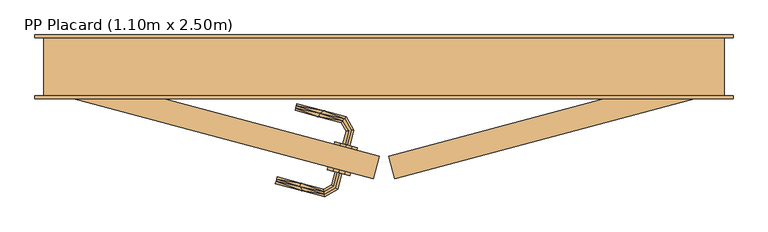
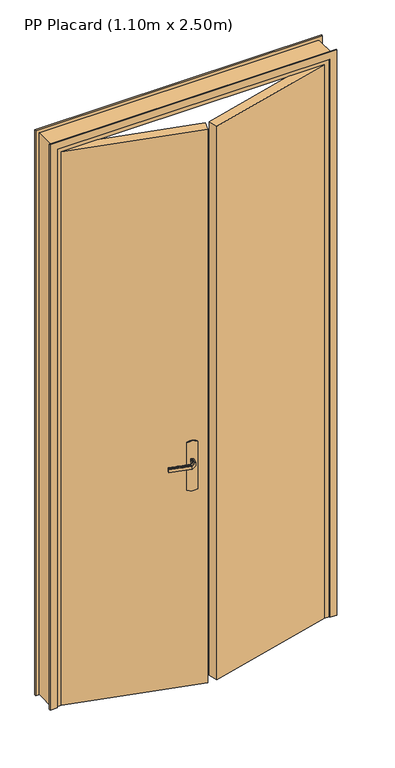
"""IFC4 building model written with IfcOpenShell, lengths in millimetres: door geometry, PP Placard (1.10m x 2.50m)."""

from ifc_helpers import new_model, si_unit, frame, origin, origin_with_axes, place, context, project, spatial, polyline, outline, extrude, faceted_brep, source, transform, mapped, element, save


def pp_placard_1_10m_x_2_50m_df28babe(model_context):
    return source(origin(), model_context, "Body", "SolidModel", [
        extrude(outline(polyline([(0.0, 1255.0), (2500.0, 1255.0), (2500.0, 55.0), (0.0, 55.0), (0.0, 85.0), (2470.0, 85.0), (2470.0, 1225.0), (0.0, 1225.0), (0.0, 1255.0)])), frame((0.0, 100.0, 0.0), z_axis=(0.0, 1.0, 0.0), x_axis=(0.0, 0.0, 1.0)), (0.0, 0.0, 1.0), 5.0),
        extrude(outline(polyline([(0.0, 0.0), (206.2910989, 39.2935427), (212.0216555, 30.5643917), (215.2976776, 20.6495021), (215.8959097, 10.2245573), (213.7755833, 0.0), (7.4844843, -39.2935426), (1.7539277, -30.5643917), (-1.5220943, -20.6495021), (-2.1203264, -10.2245573), (0.0, 0.0)])), frame((607.9749332, -93.36068, 870.0), z_axis=(0.2588190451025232, 0.9659258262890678, 0.0), x_axis=(-0.18073641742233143, 0.04842817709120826, 0.9823385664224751)), (0.0, 0.0, 1.0), 5.0),
        extrude(outline(polyline([(663.3880337, -103.7134418), (1194.6472382, 38.6370331), (1205.0, 0.0), (673.7407955, -142.3504748), (663.3880337, -103.7134418)])), origin_with_axes(), (0.0, 0.0, 1.0), 2450.0),
        extrude(outline(polyline([(646.6119663, -103.7134418), (636.2592045, -142.3504748), (105.0, 0.0), (115.3527618, 38.6370331), (646.6119663, -103.7134418)])), origin_with_axes(), (0.0, 0.0, 1.0), 2450.0),
        faceted_brep([(1240.0, 0.0, 0.0), (1205.0, 0.0, 0.0), (1205.0, 40.0, 0.0), (1190.0, 40.0, 0.0), (1190.0, 100.0, 0.0), (1240.0, 100.0, 0.0), (1240.0, 100.0, 2485.0), (1240.0, 0.0, 2485.0), (1190.0, 100.0, 2435.0), (120.0, 100.0, 2435.0), (120.0, 100.0, 0.0), (70.0, 100.0, 0.0), (70.0, 100.0, 2485.0), (1190.0, 40.0, 2435.0), (1205.0, 40.0, 2450.0), (105.0, 40.0, 2450.0), (105.0, 40.0, 0.0), (120.0, 40.0, 0.0), (120.0, 40.0, 2435.0), (1205.0, 0.0, 2450.0), (70.0, 0.0, 2485.0), (70.0, 0.0, 0.0), (105.0, 0.0, 0.0), (105.0, 0.0, 2450.0)], [[[0, 1, 2, 3, 4, 5]], [[5, 6, 7, 0]], [[4, 8, 9, 10, 11, 12, 6, 5]], [[3, 13, 8, 4]], [[2, 14, 15, 16, 17, 18, 13, 3]], [[1, 19, 14, 2]], [[0, 7, 20, 21, 22, 23, 19, 1]], [[12, 11, 21, 20]], [[21, 11, 10, 17, 16, 22]], [[18, 17, 10, 9]], [[23, 22, 16, 15]], [[6, 12, 20, 7]], [[13, 18, 9, 8]], [[19, 23, 15, 14]]]),
        faceted_brep([(587.9942236, -82.8304841, 992.2195592), (591.9068002, -83.8788558, 992.2195592), (595.7460669, -84.9075842, 993.0), (595.7460669, -84.9075842, 1007.0), (591.9068002, -83.8788558, 1007.7804408), (587.9942236, -82.8304841, 1007.7804408), (584.154957, -81.8017556, 1007.0), (584.154957, -81.8017556, 993.0), (589.9745561, -60.0827159, 1007.0), (589.9745561, -60.0827159, 993.0), (594.239936, -59.521168, 1007.7804408), (598.5867624, -58.9488974, 1007.7804408), (587.1412545, -39.1246963, 1007.7804408), (584.4722405, -42.603023, 1007.7804408), (602.8521423, -58.3873495, 1007.0), (602.8521423, -58.3873495, 993.0), (598.5867624, -58.9488974, 992.2195592), (594.239936, -59.521168, 992.2195592), (584.4722405, -42.603023, 992.2195592), (587.1412545, -39.1246963, 992.2195592), (581.8532358, -46.0161764, 1007.0), (581.8532358, -46.0161764, 993.0), (589.7602592, -35.7115428, 1007.0), (589.7602592, -35.7115428, 993.0), (503.1346428, -20.8086794, 1007.7804408), (504.1830145, -16.8961028, 1007.7804408), (505.2117429, -13.0568362, 1007.0), (505.2117429, -13.0568362, 993.0), (504.1830145, -16.8961028, 992.2195592), (503.1346428, -20.8086794, 992.2195592), (502.1059144, -24.6479461, 993.0), (502.1059144, -24.6479461, 1007.0), (541.9795751, -35.3320613, 1007.0), (541.9795866, -35.3320643, 993.0), (544.3276275, -29.7495629, 1007.8786868), (551.1903704, -25.3767723, 1007.0), (551.1903718, -25.3767727, 993.0), (544.3276273, -29.7495629, 992.1213132)], [[[0, 1, 2, 3, 4, 5, 6, 7]], [[8, 7, 6]], [[7, 8, 9]], [[5, 10, 8, 6]], [[5, 4, 11, 12, 13, 10]], [[3, 14, 11, 4]], [[14, 3, 2, 15]], [[2, 1, 16, 15]], [[1, 0, 17, 18, 19, 16]], [[0, 7, 9, 17]], [[20, 21, 9, 8]], [[8, 10, 13, 20]], [[14, 22, 12, 11]], [[23, 22, 14, 15]], [[15, 16, 19, 23]], [[17, 9, 21, 18]], [[24, 25, 26, 27, 28, 29, 30, 31]], [[21, 20, 32, 31, 30, 33]], [[34, 24, 32]], [[25, 34, 35]], [[13, 32, 20]], [[24, 31, 32]], [[25, 35, 26]], [[35, 12, 22]], [[34, 12, 35]], [[34, 13, 12]], [[34, 32, 13]], [[24, 34, 25]], [[22, 23, 36, 27, 26, 35]], [[37, 28, 36]], [[36, 28, 27]], [[36, 23, 19]], [[18, 33, 37]], [[33, 18, 21]], [[30, 29, 33]], [[37, 29, 28]], [[37, 33, 29]], [[37, 36, 19]], [[18, 37, 19]]]),
        extrude(outline(polyline([(0.0, 1255.0), (2500.0, 1255.0), (2500.0, 55.0), (0.0, 55.0), (0.0, 85.0), (2470.0, 85.0), (2470.0, 1225.0), (0.0, 1225.0), (0.0, 1255.0)])), frame((0.0, -5.0, 0.0), z_axis=(0.0, 1.0, 0.0), x_axis=(0.0, 0.0, 1.0)), (0.0, 0.0, 1.0), 5.0),
        extrude(outline(polyline([(0.0, 0.0), (206.2910989, 39.2935427), (212.0216555, 30.5643917), (215.2976776, 20.6495021), (215.8959097, 10.2245573), (213.7755833, 0.0), (7.4844843, -39.2935427), (1.7539277, -30.5643916), (-1.5220943, -20.6495021), (-2.1203264, -10.2245572), (0.0, 0.0)])), frame((596.3280762, -136.8273421, 870.0), z_axis=(0.2588190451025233, 0.9659258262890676, 0.0), x_axis=(-0.18073641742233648, 0.04842817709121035, 0.982338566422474)), (0.0, 0.0, 1.0), 5.0),
        faceted_brep([(575.0532714, -131.1267754, 1007.7804408), (578.9658479, -132.1751471, 1007.7804408), (582.8051146, -133.2038755, 1007.0), (582.8051146, -133.2038755, 993.0), (578.9658479, -132.1751471, 992.2195592), (575.0532714, -131.1267754, 992.2195592), (571.2140047, -130.098047, 993.0), (571.2140047, -130.098047, 1007.0), (572.2353685, -157.2936382, 1007.7804408), (575.648522, -159.9126429, 1007.0), (568.7570418, -154.6246242, 1007.7804408), (552.0073098, -164.2950864, 1007.7804408), (552.5795804, -168.6419128, 1007.7804408), (565.3438883, -152.0056194, 1007.0), (565.3438883, -152.0056194, 993.0), (568.7570418, -154.6246242, 992.2195592), (572.2353685, -157.2936382, 992.2195592), (552.5795804, -168.6419128, 992.2195592), (552.0073098, -164.2950864, 992.2195592), (575.648522, -159.9126429, 993.0), (553.1411283, -172.9072927, 1007.0), (551.4457619, -160.0297065, 1007.0), (551.4457619, -160.0297065, 993.0), (553.1411283, -172.9072927, 993.0), (468.486007, -150.2240213, 1007.0), (469.5147354, -146.3847546, 1007.7804408), (470.5631071, -142.4721781, 1007.7804408), (471.5918355, -138.6329114, 1007.0), (471.5918355, -138.6329114, 993.0), (470.5631071, -142.4721781, 992.2195592), (469.5147354, -146.3847546, 992.2195592), (468.486007, -150.2240213, 993.0), (510.7610226, -155.3399205, 1007.8786868), (514.5712394, -162.5725221, 1007.0), (511.5187987, -149.3313089, 1007.0), (511.5187987, -149.3313089, 993.0), (510.7610227, -155.3399206, 992.1213132), (514.5712468, -162.5725241, 993.0)], [[[0, 1, 2, 3, 4, 5, 6, 7]], [[2, 1, 8, 9]], [[1, 0, 10, 11, 12, 8]], [[0, 7, 13, 10]], [[14, 13, 7, 6]], [[5, 15, 14, 6]], [[5, 4, 16, 17, 18, 15]], [[3, 19, 16, 4]], [[9, 19, 3, 2]], [[9, 8, 12, 20]], [[10, 13, 21, 11]], [[22, 21, 13, 14]], [[14, 15, 18, 22]], [[16, 19, 23, 17]], [[20, 23, 19, 9]], [[24, 25, 26, 27, 28, 29, 30, 31]], [[32, 25, 33]], [[33, 25, 24]], [[33, 20, 12]], [[11, 34, 32]], [[34, 11, 21]], [[27, 26, 34]], [[32, 26, 25]], [[32, 34, 26]], [[32, 33, 12]], [[11, 32, 12]], [[21, 22, 35, 28, 27, 34]], [[36, 29, 35]], [[30, 36, 37]], [[18, 35, 22]], [[29, 28, 35]], [[30, 37, 31]], [[37, 17, 23]], [[36, 17, 37]], [[36, 18, 17]], [[36, 35, 18]], [[29, 36, 30]], [[23, 20, 33, 24, 31, 37]]]),
    ])


if __name__ == "__main__":
    model = new_model("IFC4")
    model_context = context("Model", 3, world=origin())
    ifc_project = project(units=[si_unit("LENGTHUNIT", "METRE", prefix="MILLI")], contexts=[model_context])
    site = spatial("IfcSite", under=ifc_project)
    building = spatial("IfcBuilding", under=site)
    placement = place(None, origin())
    pp_placard_1_10m_x_2_50m_shape = pp_placard_1_10m_x_2_50m_df28babe(model_context)
    element("IfcDoor", 1, ObjectType="PP Placard (1.10m x 2.50m)", at=placement, inside=building, context=model_context, shape_type="MappedRepresentation", body=[
        mapped(pp_placard_1_10m_x_2_50m_shape, transform((0.0, 0.0, 0.0), x_axis=(1.0, 0.0, 0.0), y_axis=(0.0, 1.0, 0.0), z_axis=(0.0, 0.0, 1.0))),
    ])
    save(model, "model.ifc")
